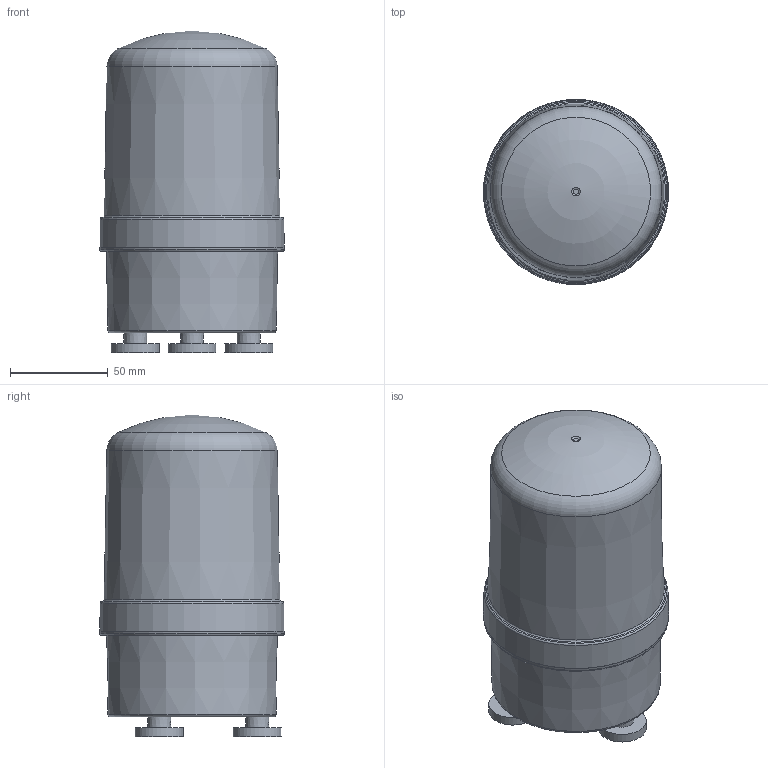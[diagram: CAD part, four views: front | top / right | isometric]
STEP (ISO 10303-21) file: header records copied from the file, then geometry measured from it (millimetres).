
FILE_DESCRIPTION(/* description */ (''),/* implementation_level */ '2;1');
FILE_NAME(/* name */ 'JDS100E-CX.stp',/* time_stamp */ '2024-11-13T18:56:01+08:00',/* author */ (''),/* organization */ (''),/* preprocessor_version */ 'ST-DEVELOPER v16.7',/* originating_system */ 'SIEMENS PLM Software NX 12.0',/* authorisation */ '');
FILE_SCHEMA (('AUTOMOTIVE_DESIGN { 1 0 10303 214 3 1 1 1 }'));
Length unit declared in the file: millimetre
Products named in the file (1): JDS100E-CX
Bounding box: 94.94 x 94.94 x 164.87 mm (x, y, z)
Volume: 91641.6 mm3; surface area: 129931.5 mm2
Topology: 4 solids, 5 shells, 618 faces, 1661 edges, 1077 vertices
Faces by surface type: plane 457, cone 75, cylinder 47, sphere 19, torus 18, bspline 2
Full cylindrical faces by diameter (mm): 2.5 x2, 3.8 x3, 10 x3, 10.6 x3, 24.7 x3, 79 x1
Entity records: 19230 total; most frequent: CARTESIAN_POINT 4680, ORIENTED_EDGE 3066, DIRECTION 2727, EDGE_CURVE 1533, VERTEX_POINT 1056, AXIS2_PLACEMENT_3D 940, LINE 847, VECTOR 847
